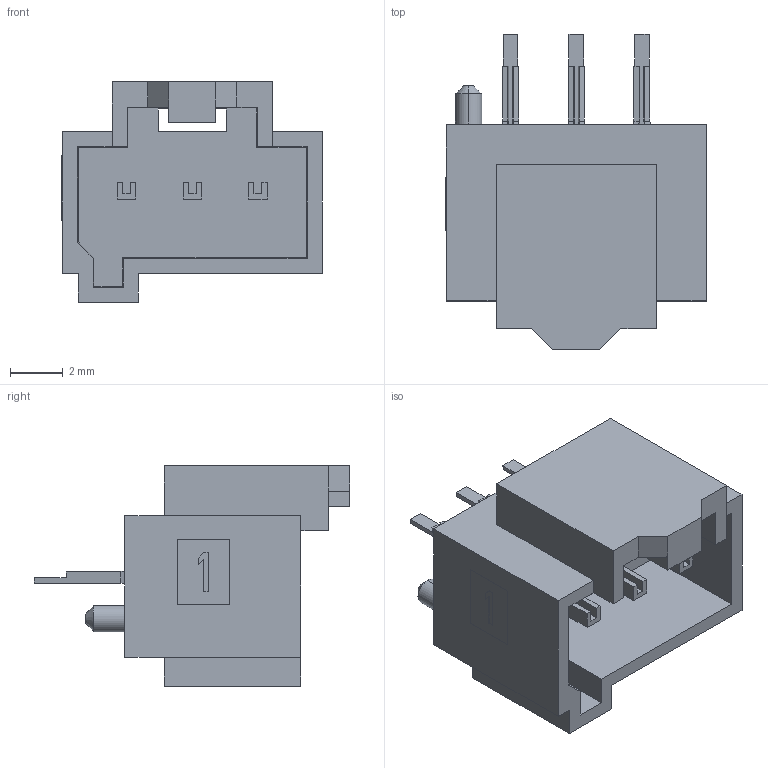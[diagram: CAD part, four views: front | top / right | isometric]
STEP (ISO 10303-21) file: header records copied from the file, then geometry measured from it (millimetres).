
FILE_DESCRIPTION((''),'2;1');
FILE_NAME('2078430003','2019-08-29T',('gga'),(''),'PRO/ENGINEER BY PARAMETRIC TECHNOLOGY CORPORATION, 2016010','PRO/ENGINEER BY PARAMETRIC TECHNOLOGY CORPORATION, 2016010','');
FILE_SCHEMA(('CONFIG_CONTROL_DESIGN'));
Length unit declared in the file: millimetre
Products named in the file (1): 2078430003
Bounding box: 9.92 x 12.01 x 8.4 mm (x, y, z)
Volume: 257.1 mm3; surface area: 608 mm2
Topology: 1 solids, 2 shells, 165 faces, 457 edges, 304 vertices
Faces by surface type: plane 141, bspline 18, cylinder 4, cone 2
Entity records: 5574 total; most frequent: CARTESIAN_POINT 1345, ORIENTED_EDGE 898, DIRECTION 773, EDGE_CURVE 449, VECTOR 433, LINE 433, VERTEX_POINT 296, EDGE_LOOP 175
